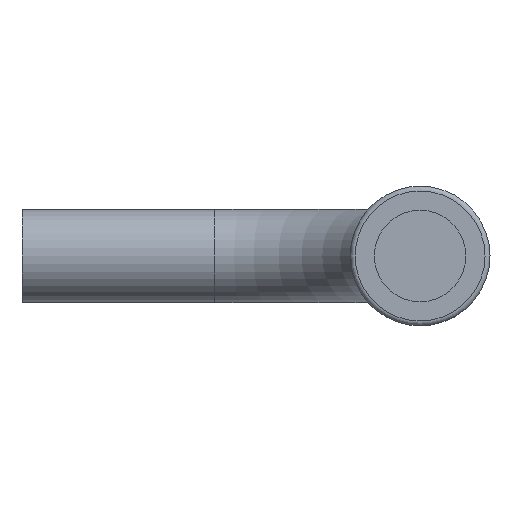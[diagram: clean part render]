
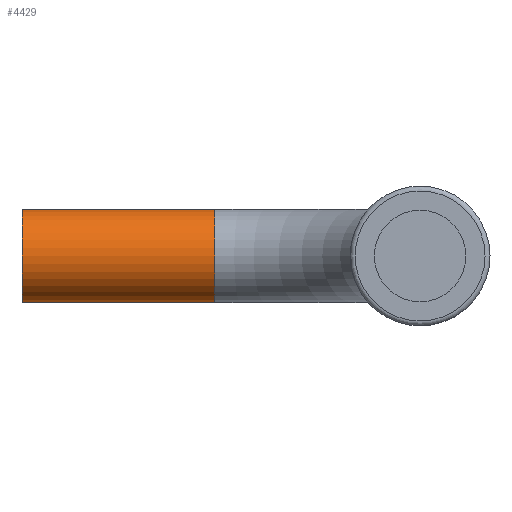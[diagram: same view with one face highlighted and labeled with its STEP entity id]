
A CAD part, left-side view. The second image highlights one B-rep face of the part: STEP entity #4429.
In plain terms, the highlighted cylindrical face has radius 2.375 mm (diameter 4.75 mm), a full revolution.
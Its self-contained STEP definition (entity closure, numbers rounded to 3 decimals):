
#137=CYLINDRICAL_SURFACE('',#5083,2.375);
#655=ORIENTED_EDGE('',*,*,#1287,.F.);
#656=ORIENTED_EDGE('',*,*,#1286,.T.);
#1286=EDGE_CURVE('',#1705,#1705,#2124,.T.);
#1287=EDGE_CURVE('',#1706,#1706,#2125,.T.);
#1705=VERTEX_POINT('',#7818);
#1706=VERTEX_POINT('',#7821);
#2124=CIRCLE('',#5082,2.375);
#2125=CIRCLE('',#5084,2.375);
#2750=EDGE_LOOP('',(#655));
#2751=EDGE_LOOP('',(#656));
#3588=FACE_BOUND('',#2750,.T.);
#3589=FACE_BOUND('',#2751,.T.);
#4429=ADVANCED_FACE('',(#3588,#3589),#137,.T.);
#5082=AXIS2_PLACEMENT_3D('',#7817,#6339,#6340);
#5083=AXIS2_PLACEMENT_3D('',#7819,#6341,#6342);
#5084=AXIS2_PLACEMENT_3D('',#7820,#6343,#6344);
#6339=DIRECTION('',(0.,1.,0.));
#6340=DIRECTION('',(-1.,0.,0.));
#6341=DIRECTION('',(0.,-1.,0.));
#6342=DIRECTION('',(0.,0.,-1.));
#6343=DIRECTION('',(0.,1.,0.));
#6344=DIRECTION('',(-1.,0.,0.));
#7817=CARTESIAN_POINT('',(68.58,10.49,0.));
#7818=CARTESIAN_POINT('',(66.205,10.49,0.));
#7819=CARTESIAN_POINT('',(68.58,20.32,0.));
#7820=CARTESIAN_POINT('',(68.58,20.32,0.));
#7821=CARTESIAN_POINT('',(66.205,20.32,0.));
